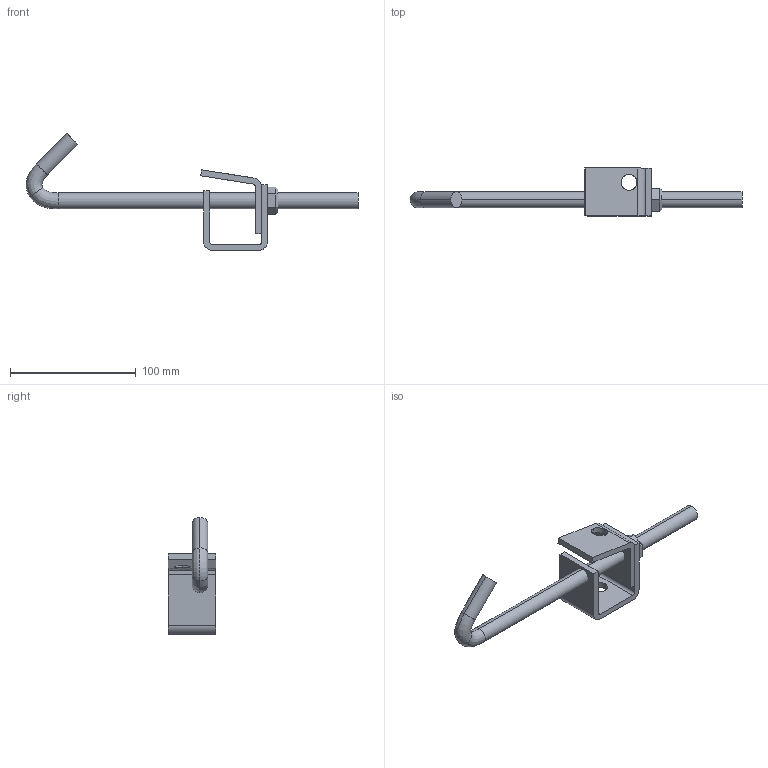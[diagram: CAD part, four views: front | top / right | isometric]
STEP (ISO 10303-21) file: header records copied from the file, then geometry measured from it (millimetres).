
FILE_DESCRIPTION(('TurboCAD Mac Pro'),'Build 980');
FILE_NAME('P2824-9.stp',' ',(''),(''),'ACIS Interop','IMSI','TurboCAD Mac Pro BY IMSI, INCORPORATED');
FILE_SCHEMA(('automotive_design'));
Length unit declared in the file: inch
Products named in the file (4): 1; 2; 3; 4
Bounding box: 264.12 x 38.1 x 93.08 mm (x, y, z)
Volume: 78558.5 mm3; surface area: 33461.4 mm2
Topology: 4 solids, 4 shells, 66 faces, 169 edges, 108 vertices
Faces by surface type: plane 34, bspline 22, cylinder 10
Entity records: 4125 total; most frequent: CARTESIAN_POINT 1401, ORIENTED_EDGE 330, DIRECTION 241, STYLED_ITEM 197, PRESENTATION_STYLE_ASSIGNMENT 197, COLOUR_RGB 197, EDGE_CURVE 165, CURVE_STYLE 127
